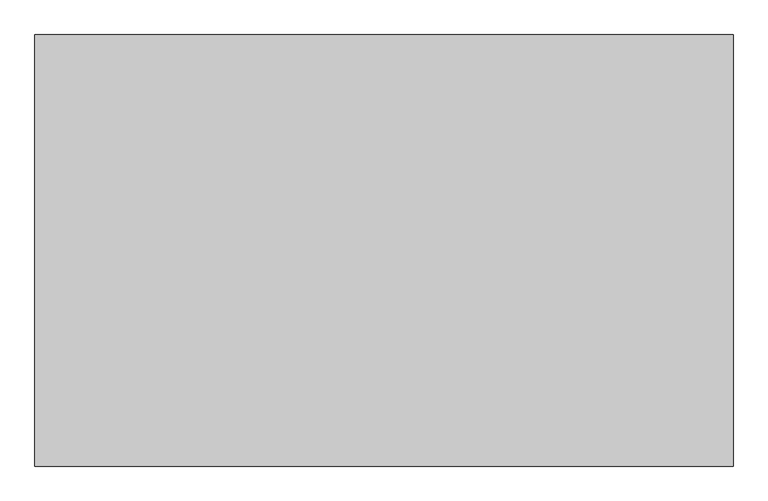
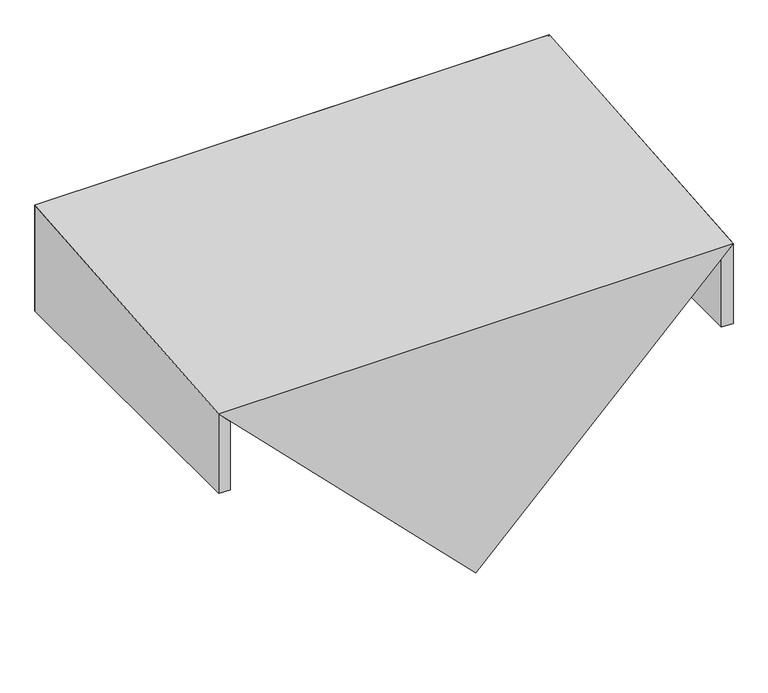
"""IFC4 building model written with IfcOpenShell, lengths in millimetres: proxy geometry, SALUTE^ADMIN_34x55 SLOPED TRANS-PARTS SOLID."""

from ifc_helpers import new_model, si_unit, frame, origin, place, context, project, spatial, polyline, outline, extrude, faceted_brep, source, transform, mapped, element, save


def generic_models_f8b32dde(model_context):
    return source(origin(), model_context, "Body", "SolidModel", [
        extrude(outline(polyline([(-1.5875, 534.9875), (-1331.9125, 534.9875), (-1331.9125, 830.2625), (-1.5875, 830.2625), (-1.5875, 534.9875)])), frame((0.0, 0.0, -19.05), z_axis=(0.0, 0.0, 1.0), x_axis=(1.0, 0.0, 0.0)), (0.0, 0.0, 1.0), 19.05),
        faceted_brep([(-666.75, 0.0, -663.1138026), (31.75, 0.0, 38.1), (-1365.25, 0.0, 38.1), (31.75, 863.6, 114.3), (-666.75, 165.1, -648.5461555), (-1365.25, 863.6, 114.3)], [[[0, 1, 2]], [[3, 4, 5]], [[1, 0, 4, 3]], [[5, 2, 1, 3]], [[0, 2, 5, 4]]]),
        faceted_brep([(-1365.25, 0.0, -190.5), (-1333.5, 0.0, -190.5), (-1333.5, 0.0, 6.2266453), (-1365.25, 0.0, 38.1), (-1333.5, 831.85, -190.5), (-1333.5, 831.85, 79.6251747), (-1365.25, 863.6, 114.3), (-1365.25, 863.6, -190.5)], [[[0, 1, 2, 3]], [[2, 1, 4, 5]], [[6, 3, 2, 5]], [[5, 4, 7, 6]], [[7, 4, 1, 0]], [[0, 3, 6, 7]]]),
        faceted_brep([(0.0, 831.85, 79.6251747), (31.75, 863.6, 114.3), (-1365.25, 863.6, 114.3), (-1333.5, 831.85, 79.6251747), (31.75, 863.6, -190.5), (-1365.25, 863.6, -190.5), (0.0, 831.85, -190.5), (-1333.5, 831.85, -190.5)], [[[0, 1, 2, 3]], [[1, 4, 5, 2]], [[4, 6, 7, 5]], [[6, 0, 3, 7]], [[2, 5, 7, 3]], [[4, 1, 0, 6]]]),
        faceted_brep([(0.0, 0.0, -190.5), (31.75, 0.0, -190.5), (31.75, 0.0, 38.1), (0.0, 0.0, 6.2266453), (31.75, 863.6, 114.3), (31.75, 863.6, -190.5), (0.0, 831.85, -190.5), (0.0, 831.85, 79.6251747)], [[[0, 1, 2, 3]], [[4, 5, 6, 7]], [[7, 3, 2, 4]], [[6, 5, 1, 0]], [[1, 5, 4, 2]], [[7, 6, 0, 3]]]),
    ])


if __name__ == "__main__":
    model = new_model("IFC4")
    model_context = context("Model", 3, world=origin())
    ifc_project = project(units=[si_unit("LENGTHUNIT", "METRE", prefix="MILLI")], contexts=[model_context])
    site = spatial("IfcSite", under=ifc_project)
    building = spatial("IfcBuilding", under=site)
    placement = place(None, origin())
    generic_models_shape = generic_models_f8b32dde(model_context)
    element("IfcBuildingElementProxy", 1, Name="SALUTE^ADMIN_34x55 SLOPED TRANS-PARTS SOLID", ObjectType="SALUTE^ADMIN_34x55 SLOPED TRANS-PARTS SOLID", at=placement, inside=building, context=model_context, shape_type="MappedRepresentation", body=[
        mapped(generic_models_shape, transform((0.0, 0.0, 0.0), x_axis=(1.0, 0.0, 0.0), y_axis=(0.0, 1.0, 0.0), z_axis=(0.0, 0.0, 1.0))),
    ])
    save(model, "model.ifc")
